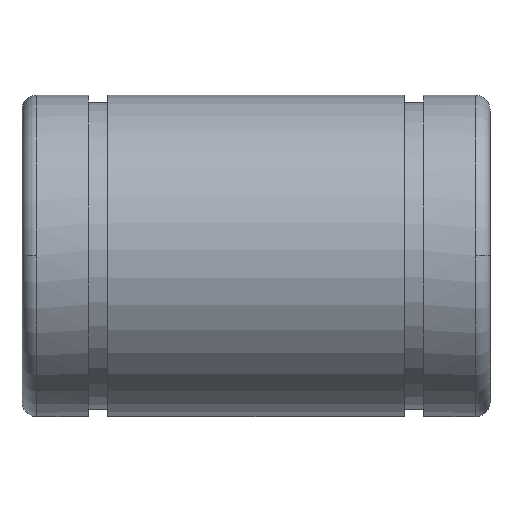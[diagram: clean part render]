
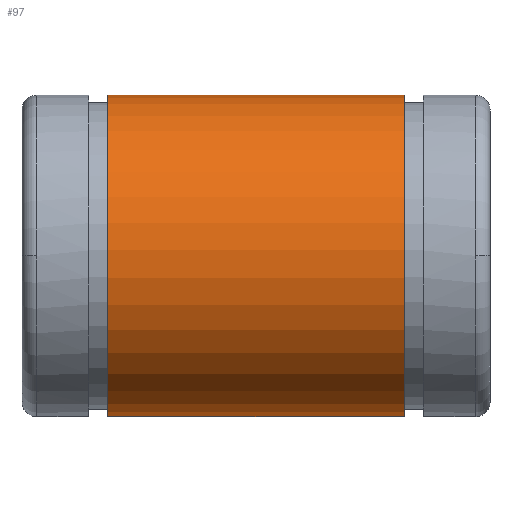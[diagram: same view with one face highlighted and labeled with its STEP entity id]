
A CAD part, top view. The second image highlights one B-rep face of the part: STEP entity #97.
In plain terms, the highlighted cylindrical face has radius 11 mm (diameter 22 mm), a partial arc.
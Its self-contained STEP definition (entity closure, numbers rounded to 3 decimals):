
#97 = ADVANCED_FACE( '', ( #159 ), #160, .T. );
#159 = FACE_OUTER_BOUND( '', #243, .T. );
#160 = CYLINDRICAL_SURFACE( '', #244, 11. );
#243 = EDGE_LOOP( '', ( #466, #467, #468, #469 ) );
#244 = AXIS2_PLACEMENT_3D( '', #470, #471, #472 );
#466 = ORIENTED_EDGE( '', *, *, #633, .T. );
#467 = ORIENTED_EDGE( '', *, *, #680, .F. );
#468 = ORIENTED_EDGE( '', *, *, #661, .T. );
#469 = ORIENTED_EDGE( '', *, *, #681, .T. );
#470 = CARTESIAN_POINT( '', ( 0., 0., 0. ) );
#471 = DIRECTION( '', ( 1., 0., 0. ) );
#472 = DIRECTION( '', ( 0., 1., 0. ) );
#633 = EDGE_CURVE( '', #765, #766, #767, .T. );
#661 = EDGE_CURVE( '', #820, #818, #821, .T. );
#680 = EDGE_CURVE( '', #820, #766, #845, .T. );
#681 = EDGE_CURVE( '', #818, #765, #846, .T. );
#765 = VERTEX_POINT( '', #961 );
#766 = VERTEX_POINT( '', #962 );
#767 = LINE( '', #963, #964 );
#818 = VERTEX_POINT( '', #1077 );
#820 = VERTEX_POINT( '', #1080 );
#821 = LINE( '', #1081, #1082 );
#845 = CIRCLE( '', #1119, 11. );
#846 = CIRCLE( '', #1120, 11. );
#961 = CARTESIAN_POINT( '', ( 10.15, 11., 0. ) );
#962 = CARTESIAN_POINT( '', ( -10.15, 11., 0. ) );
#963 = CARTESIAN_POINT( '', ( 0., 11., 0. ) );
#964 = VECTOR( '', #1210, 1. );
#1077 = CARTESIAN_POINT( '', ( 10.15, -10.974, 0.75 ) );
#1080 = CARTESIAN_POINT( '', ( -10.15, -10.974, 0.75 ) );
#1081 = CARTESIAN_POINT( '', ( 0., -10.974, 0.75 ) );
#1082 = VECTOR( '', #1259, 1. );
#1119 = AXIS2_PLACEMENT_3D( '', #1288, #1289, #1290 );
#1120 = AXIS2_PLACEMENT_3D( '', #1291, #1292, #1293 );
#1210 = DIRECTION( '', ( -1., 0., 0. ) );
#1259 = DIRECTION( '', ( 1., 0., 0. ) );
#1288 = CARTESIAN_POINT( '', ( -10.15, 0., 0. ) );
#1289 = DIRECTION( '', ( -1., 0., 0. ) );
#1290 = DIRECTION( '', ( 0., 1., 0. ) );
#1291 = CARTESIAN_POINT( '', ( 10.15, 0., 0. ) );
#1292 = DIRECTION( '', ( -1., 0., 0. ) );
#1293 = DIRECTION( '', ( 0., 1., 0. ) );
